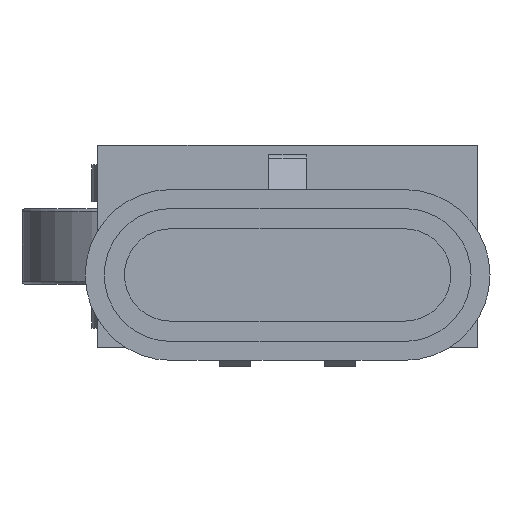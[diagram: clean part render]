
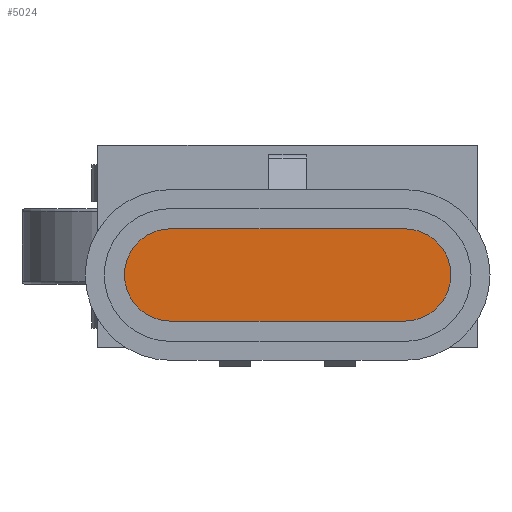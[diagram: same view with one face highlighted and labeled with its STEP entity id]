
A CAD part, front view. The second image highlights one B-rep face of the part: STEP entity #5024.
In plain terms, the highlighted planar face has unit normal (0, -1, 0) as drawn and (0, 0, -1) by its records, which use the part's own axes.
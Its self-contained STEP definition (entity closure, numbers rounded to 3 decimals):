
#150=LINE('',#7341,#708);
#154=LINE('',#7353,#712);
#708=VECTOR('',#5971,18.5);
#712=VECTOR('',#5983,18.5);
#1193=PLANE('',#5352);
#1437=FACE_OUTER_BOUND('',#1715,.T.);
#1715=EDGE_LOOP('',(#3538,#3539,#3540,#3541));
#1980=CIRCLE('',#5347,3.65);
#1982=CIRCLE('',#5351,3.65);
#2180=VERTEX_POINT('',#7338);
#2181=VERTEX_POINT('',#7340);
#2183=VERTEX_POINT('',#7346);
#2185=VERTEX_POINT('',#7352);
#2695=EDGE_CURVE('',#2181,#2180,#150,.T.);
#2698=EDGE_CURVE('',#2183,#2181,#1980,.T.);
#2701=EDGE_CURVE('',#2185,#2183,#154,.T.);
#2704=EDGE_CURVE('',#2180,#2185,#1982,.T.);
#3538=ORIENTED_EDGE('',*,*,#2698,.T.);
#3539=ORIENTED_EDGE('',*,*,#2695,.T.);
#3540=ORIENTED_EDGE('',*,*,#2704,.T.);
#3541=ORIENTED_EDGE('',*,*,#2701,.T.);
#5024=ADVANCED_FACE('',(#1437),#1193,.F.);
#5347=AXIS2_PLACEMENT_3D('',#7347,#5977,#5978);
#5351=AXIS2_PLACEMENT_3D('',#7357,#5989,#5990);
#5352=AXIS2_PLACEMENT_3D('',#7358,#5991,#5992);
#5971=DIRECTION('',(1.,0.,0.));
#5977=DIRECTION('center_axis',(0.,0.,-1.));
#5978=DIRECTION('ref_axis',(1.,0.,0.));
#5983=DIRECTION('',(-1.,0.,0.));
#5989=DIRECTION('center_axis',(0.,0.,-1.));
#5990=DIRECTION('ref_axis',(1.,0.,0.));
#5991=DIRECTION('center_axis',(0.,0.,1.));
#5992=DIRECTION('ref_axis',(1.,0.,0.));
#7338=CARTESIAN_POINT('',(9.25,-2.1,-59.6));
#7340=CARTESIAN_POINT('',(-9.25,-2.1,-59.6));
#7341=CARTESIAN_POINT('',(-9.25,-2.1,-59.6));
#7346=CARTESIAN_POINT('',(-9.25,-9.4,-59.6));
#7347=CARTESIAN_POINT('Origin',(-9.25,-5.75,-59.6));
#7352=CARTESIAN_POINT('',(9.25,-9.4,-59.6));
#7353=CARTESIAN_POINT('',(9.25,-9.4,-59.6));
#7357=CARTESIAN_POINT('Origin',(9.25,-5.75,-59.6));
#7358=CARTESIAN_POINT('Origin',(-9.25,-5.75,-59.6));
